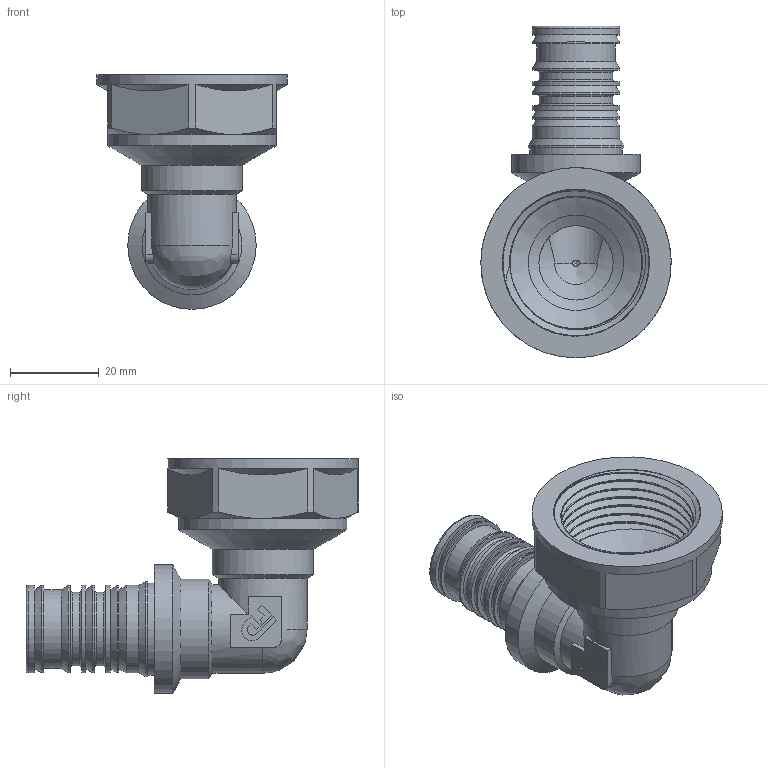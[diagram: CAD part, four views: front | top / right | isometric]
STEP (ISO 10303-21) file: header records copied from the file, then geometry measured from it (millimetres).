
FILE_DESCRIPTION(/* description */ (''),/* implementation_level */ '2;1');
FILE_NAME(/* name */ 'C:\Users\Doom\Desktop\Фадотех\Пресс\HDU15-1 15.01.2020\HDU15-1 15.01.2020.stp',/* time_stamp */ '2022-08-13T13:09:11+03:00',/* author */ ('Doom'),/* organization */ (''),/* preprocessor_version */ 'ST-DEVELOPER v18',/* originating_system */ 'Autodesk Inventor 2020',/* authorisation */ '');
FILE_SCHEMA (('AUTOMOTIVE_DESIGN { 1 0 10303 214 3 1 1 }'));
Length unit declared in the file: millimetre
Products named in the file (1): HDU15-1 15.01.2020
Bounding box: 43 x 75 x 53 mm (x, y, z)
Volume: 22476.2 mm3; surface area: 20502 mm2
Topology: 2 solids, 2 shells, 153 faces, 436 edges, 300 vertices
Faces by surface type: plane 67, cylinder 36, cone 28, bspline 17, torus 5
Full cylindrical faces by diameter (mm): 0 x1, 14.5 x1, 16.6 x2, 16.8 x1, 17.8 x1, 19.8 x8, 20 x2, 20.8 x1, 21.5 x1, 22.5 x1, 22.8 x1, 29 x1, 29.826 x7, 33.25 x2, 38 x1, 43 x1
Entity records: 9133 total; most frequent: CARTESIAN_POINT 5171, ORIENTED_EDGE 868, DIRECTION 775, EDGE_CURVE 434, VERTEX_POINT 300, AXIS2_PLACEMENT_3D 295, LINE 185, VECTOR 185
